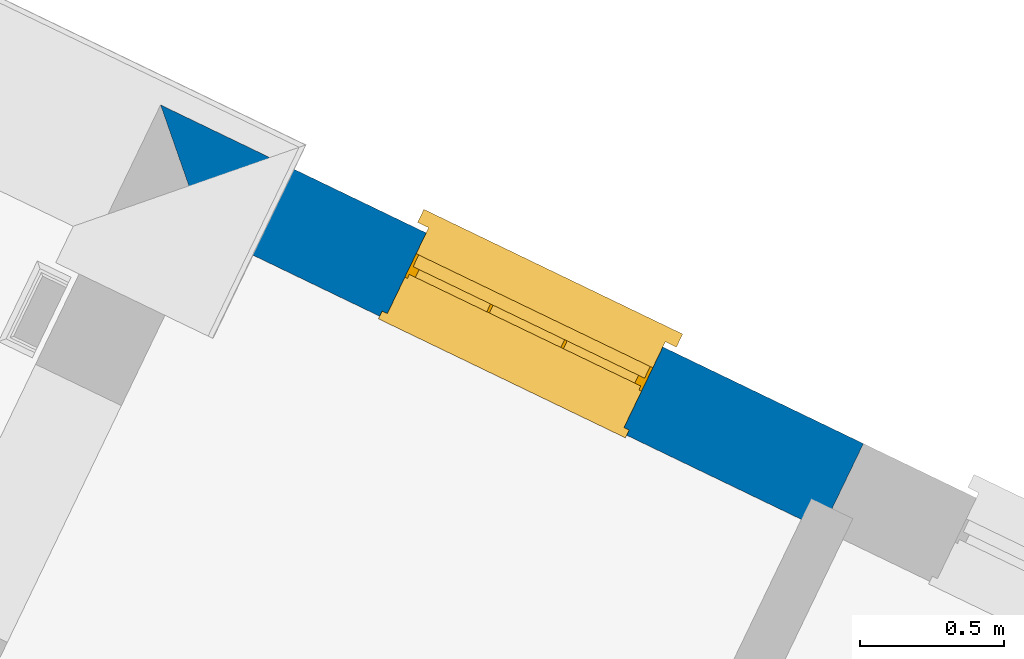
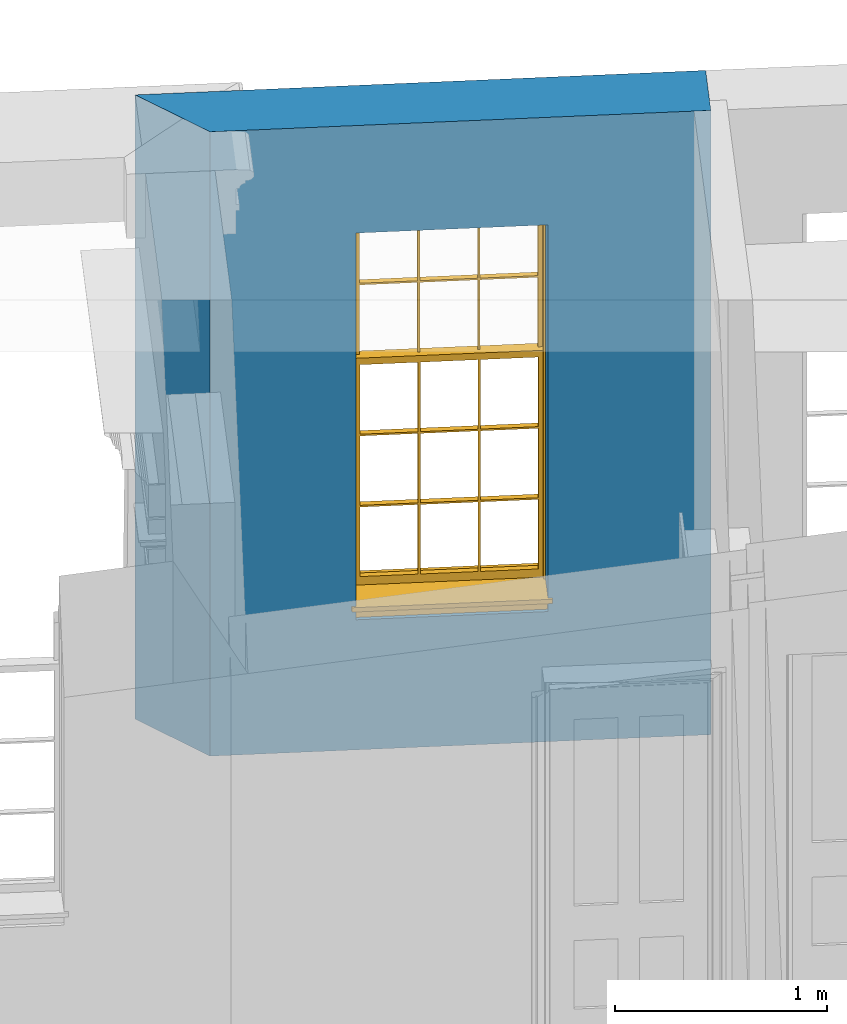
# One storey, part 6 of 6: 1 wall, 1 window, 1 opening.
"""IFC4 building model written with IfcOpenShell, lengths in metres."""

from ifc_helpers import new_model, si_unit, frame, origin, origin_with_axes, place, context, subcontext, project, spatial, polyline, outline, extrude, faceted_brep, source, transform, mapped, material, layer, layer_set, layer_usage, type_object, type_shapes, element, fill, save


model = new_model("IFC4")

# Units and contexts
model_context = context("Model", 3, world=origin_with_axes())
body_context = subcontext(model_context, "Body", "Model", "MODEL_VIEW")
ifc_project = project(units=[si_unit("PLANEANGLEUNIT", "RADIAN"), si_unit("MASSUNIT", "GRAM", prefix="KILO"), si_unit("FORCEUNIT", "NEWTON", prefix="KILO"), si_unit("LENGTHUNIT", "METRE"), si_unit("AREAUNIT", "SQUARE_METRE"), si_unit("VOLUMEUNIT", "CUBIC_METRE")], contexts=[model_context, model_context])

# Sites, building, storey
site_1_placement = place(None, origin_with_axes())
site_1 = spatial("IfcSite", under=ifc_project, at=site_1_placement, Name="Tamar")
site_2_placement = place(site_1_placement, origin_with_axes())
site_2 = spatial("IfcSite", under=site_1, at=site_2_placement, Name="Site plot-1", CompositionType="ELEMENT")
building_placement = place(None, origin_with_axes())
building = spatial("IfcBuilding", under=site_2, at=building_placement, Name="Building plot-1", CompositionType="ELEMENT")
storey_placement = place(None, frame((0.0, 0.0, 26.0), z_axis=(0.0, 0.0, 1.0), x_axis=(1.0, 0.0, 0.0)))
storey = spatial("IfcBuildingStorey", under=building, at=storey_placement, Name="plot-1 0", CompositionType="ELEMENT", Elevation=26.0)

# Wall, opening, window
ifc_material = material(Name="Masonry")
ifc_layer = layer(ifc_material, 0.33, ventilated=False)
ifc_layer_set = layer_set([ifc_layer], Name="exterior_0.08_0.25")
ifc_layer_usage = layer_usage(ifc_layer_set, "AXIS2", "POSITIVE", -0.25)
wall_type = type_object("IfcWallType", Name="exterior_0.08_0.25", PredefinedType="SOLIDWALL", material=ifc_layer_set)
wall_placement = place(storey_placement, frame((226.301913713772, 297.716712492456, 0.0), z_axis=(0.0, 0.0, 1.0), x_axis=(-0.90085631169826, 0.434117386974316, 0.0)))
wall = element("IfcWall", 1, at=wall_placement, inside=storey, type_object=wall_type, material=ifc_layer_usage, Name="exterior", context=body_context, shape_type="SweptSolid", body=[
    extrude(outline(polyline([(-6.95842022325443e-15, 0.0800000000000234), (-4.04523211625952e-14, -0.249999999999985), (2.70242940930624, -0.250000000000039), (2.3724294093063, 0.080000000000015), (-6.95842022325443e-15, 0.0800000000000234)])), origin_with_axes(), (0.0, 0.0, 1.0), 3.6),
])
opening_placement = place(wall_placement, frame((0.771214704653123, 0.0, 0.75)))
opening = element("IfcOpeningElement", 2, at=opening_placement, cuts=wall, Name="My Opening", ObjectType="Opening", context=body_context, shape_type="SweptSolid", body=[
    extrude(outline(polyline([(0.0, -0.269999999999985), (0.90999999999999, -0.270000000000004), (0.91000000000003, 1.09999999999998), (3.99680288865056e-14, 1.1), (0.0, -0.269999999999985)])), origin_with_axes(), (0.0, 0.0, 1.0), 2.23),
])
window_type = type_object("IfcWindowType", Name="sash_big_taller", PartitioningType="DOUBLE_PANEL_HORIZONTAL", PredefinedType="NOTDEFINED")
shared_shape = source(origin(), body_context, "Body", "Brep", [
    faceted_brep([(0.033125, 0.145, 1.385209), (0.01, 0.145, 1.385209), (0.033125, 0.145, 1.786042), (0.876875, 0.145, 1.385209), (0.876875, 0.145, 1.786042), (0.9, 0.145, 1.385209), (0.876875, 0.145, 1.796042), (0.876875, 0.145, 2.196875), (0.9, 0.145, 2.22), (0.033125, 0.145, 2.196875), (0.033125, 0.145, 1.796042), (0.01, 0.145, 2.22), (0.876875, 0.115, 1.786042), (0.876875, 0.115, 1.385209), (0.9, 0.115, 1.347084), (0.033125, 0.115, 2.196875), (0.01, 0.115, 2.22), (0.033125, 0.115, 1.796042), (0.01, 0.115, 1.347084), (0.033125, 0.115, 1.385209), (0.033125, 0.115, 1.786042), (0.876875, 0.115, 2.196875), (0.876875, 0.115, 1.796042), (0.9, 0.115, 2.22), (0.033125, 0.145, 1.347084), (0.01, 0.145, 1.347084), (0.033125, 0.145, 0.94625), (0.876875, 0.145, 1.347084), (0.876875, 0.145, 0.94625), (0.9, 0.145, 1.347084), (0.876875, 0.145, 0.52625), (0.876875, 0.145, 0.125417), (0.9, 0.145, 0.077167), (0.033125, 0.145, 0.125417), (0.033125, 0.145, 0.52625), (0.01, 0.145, 0.077167), (-0.0425, 0.0, 0.01), (-0.0425, -0.05, 0.001667), (0.0, 0.0, 0.01), (0.9525, 0.0, 0.01), (0.91, 0.0, 0.01), (0.9525, -0.05, 0.001667), (-0.02, 0.33, 0.077167), (0.0, 0.33, 0.077167), (-0.02, 0.36, 0.077167), (0.0, 0.19, 0.077167), (0.01, 0.19, 0.077167), (0.91, 0.19, 0.077167), (0.91, 0.33, 0.077167), (0.9, 0.19, 0.077167), (0.93, 0.33, 0.077167), (0.93, 0.36, 0.077167), (0.01, 0.175, 1.385209), (0.9, 0.175, 1.385209), (0.876875, 0.175, 0.125417), (0.876875, 0.175, 0.52625), (0.9, 0.175, 0.077167), (0.876875, 0.175, 0.94625), (0.876875, 0.175, 1.347084), (0.033125, 0.175, 0.125417), (0.01, 0.175, 0.077167), (0.033125, 0.175, 0.52625), (0.033125, 0.175, 1.347084), (0.033125, 0.175, 0.94625), (-0.02, 0.33, 0.052167), (-0.02, 0.36, 0.052167), (0.93, 0.36, 0.052167), (0.93, 0.33, 0.052167), (0.91, 0.33, 0.052167), (0.0, 0.33, 0.052167), (0.91, 0.1, 0.026667), (0.0, 0.1, 0.026667), (-0.0425, -0.05, -0.123333), (0.9525, -0.05, -0.123333), (-0.0425, 0.0, -0.123333), (0.9525, 0.0, -0.123333), (0.01, 0.19, 2.22), (0.9, 0.19, 2.22), (0.0, 0.19, 2.23), (0.91, 0.19, 2.23), (0.01, 0.1, 0.077167), (0.9, 0.1, 0.077167), (0.592292, 0.145, 0.125417), (0.592292, 0.175, 0.125417), (0.317708, 0.175, 0.125417), (0.317708, 0.145, 0.125417), (0.592292, 0.145, 0.53625), (0.317708, 0.145, 0.53625), (0.317708, 0.145, 0.52625), (0.592292, 0.145, 0.52625), (0.592292, 0.175, 0.53625), (0.317708, 0.175, 0.53625), (0.592292, 0.115, 1.796042), (0.592292, 0.145, 1.796042), (0.317708, 0.145, 1.796042), (0.317708, 0.115, 1.796042), (0.317708, 0.115, 1.786042), (0.592292, 0.115, 1.786042), (0.317708, 0.145, 1.786042), (0.592292, 0.145, 1.786042), (0.602292, 0.115, 1.786042), (0.592292, 0.115, 1.385209), (0.602292, 0.115, 1.385209), (0.602292, 0.145, 1.385209), (0.592292, 0.145, 1.385209), (0.602292, 0.145, 1.786042), (0.876875, 0.145, 0.53625), (0.876875, 0.175, 0.53625), (0.602292, 0.175, 0.53625), (0.602292, 0.145, 0.53625), (0.317708, 0.175, 0.52625), (0.307708, 0.175, 0.125417), (0.307708, 0.175, 0.52625), (0.602292, 0.175, 0.52625), (0.602292, 0.175, 0.125417), (0.592292, 0.175, 0.52625), (0.307708, 0.175, 0.53625), (0.033125, 0.175, 0.53625), (0.317708, 0.175, 1.347084), (0.317708, 0.175, 0.94625), (0.307708, 0.175, 0.94625), (0.307708, 0.175, 1.347084), (0.602292, 0.175, 1.347084), (0.602292, 0.175, 0.94625), (0.592292, 0.175, 0.94625), (0.592292, 0.175, 1.347084), (0.307708, 0.145, 0.52625), (0.307708, 0.145, 0.125417), (0.307708, 0.145, 0.53625), (0.033125, 0.145, 0.53625), (0.307708, 0.145, 1.347084), (0.307708, 0.145, 0.94625), (0.592292, 0.145, 1.347084), (0.592292, 0.145, 0.94625), (0.317708, 0.145, 0.94625), (0.317708, 0.145, 1.347084), (0.602292, 0.145, 0.94625), (0.602292, 0.145, 1.347084), (0.602292, 0.145, 0.52625), (0.602292, 0.145, 0.125417), (0.307708, 0.115, 1.796042), (0.307708, 0.115, 1.786042), (0.307708, 0.115, 1.385209), (0.317708, 0.115, 1.385209), (0.317708, 0.115, 2.196875), (0.307708, 0.115, 2.196875), (0.602292, 0.115, 2.196875), (0.592292, 0.115, 2.196875), (0.602292, 0.115, 1.796042), (0.602292, 0.145, 1.796042), (0.307708, 0.145, 1.796042), (0.307708, 0.145, 2.196875), (0.317708, 0.145, 2.196875), (0.592292, 0.145, 2.196875), (0.602292, 0.145, 2.196875), (0.307708, 0.145, 1.786042), (0.317708, 0.145, 1.385209), (0.307708, 0.145, 1.385209), (0.876875, 0.175, 0.93625), (0.033125, 0.175, 0.93625), (0.033125, 0.145, 0.93625), (0.876875, 0.145, 0.93625), (0.91, 0.1, 2.23), (0.9, 0.1, 2.22), (0.01, 0.1, 2.22), (0.0, 0.1, 2.23), (0.91, 0.0, 0.0), (0.0, 0.0, 0.0), (0.91, 0.33, 0.0), (0.0, 0.33, 0.0), (0.317708, 0.145, 0.93625), (0.592292, 0.145, 0.93625), (0.317708, 0.175, 0.93625), (0.307708, 0.175, 0.93625), (0.602292, 0.175, 0.93625), (0.592292, 0.175, 0.93625), (0.307708, 0.145, 0.93625), (0.602292, 0.145, 0.93625)], [[[0, 1, 2]], [[3, 4, 5]], [[6, 7, 8]], [[9, 10, 11]], [[12, 13, 14]], [[15, 16, 17]], [[18, 19, 20]], [[21, 22, 23]], [[24, 25, 26]], [[27, 28, 29]], [[30, 31, 32]], [[33, 34, 35]], [[14, 27, 29]], [[25, 24, 18]], [[36, 37, 38]], [[39, 40, 41]], [[42, 43, 44]], [[45, 46, 43]], [[47, 48, 49]], [[50, 51, 48]], [[1, 0, 52]], [[5, 53, 3]], [[54, 55, 56]], [[57, 58, 53]], [[59, 60, 61]], [[62, 63, 52]], [[48, 43, 46, 49]], [[51, 44, 43, 48]], [[64, 42, 44, 65]], [[65, 44, 51, 66]], [[66, 51, 50, 67]], [[65, 66, 68, 69]], [[60, 56, 49, 46]], [[70, 71, 38, 40]], [[37, 41, 40, 38]], [[37, 72, 73, 41]], [[74, 75, 73, 72]], [[8, 11, 76, 77]], [[76, 78, 79, 77]], [[32, 35, 80, 81]], [[81, 80, 71, 70]], [[82, 83, 84, 85]], [[86, 87, 88, 89]], [[86, 90, 91, 87]], [[92, 93, 94, 95]], [[92, 95, 96, 97]], [[96, 98, 99, 97]], [[100, 97, 101, 102]], [[103, 104, 99, 105]], [[97, 99, 104, 101]], [[102, 103, 105, 100]], [[106, 107, 108, 109]], [[110, 84, 111, 112]], [[113, 114, 83, 115]], [[116, 112, 61, 117]], [[90, 115, 110, 91]], [[118, 119, 120, 121]], [[122, 123, 124, 125]], [[113, 108, 107, 55]], [[126, 112, 111, 127]], [[34, 61, 112, 126]], [[89, 115, 83, 82]], [[88, 110, 115, 89]], [[85, 84, 110, 88]], [[128, 116, 117, 129]], [[130, 121, 120, 131]], [[132, 125, 124, 133]], [[134, 119, 118, 135]], [[136, 123, 122, 137]], [[138, 113, 55, 30]], [[139, 114, 113, 138]], [[138, 30, 106, 109]], [[88, 126, 127, 85]], [[138, 89, 82, 139]], [[137, 132, 133, 136]], [[128, 129, 34, 126]], [[135, 130, 131, 134]], [[140, 17, 20, 141]], [[96, 141, 142, 143]], [[144, 145, 140, 95]], [[146, 147, 92, 148]], [[100, 12, 22, 148]], [[149, 6, 4, 105]], [[94, 150, 151, 152]], [[149, 93, 153, 154]], [[99, 98, 94, 93]], [[155, 2, 10, 150]], [[156, 157, 155, 98]], [[141, 155, 157, 142]], [[20, 2, 155, 141]], [[143, 156, 98, 96]], [[140, 150, 10, 17]], [[145, 151, 150, 140]], [[147, 153, 93, 92]], [[95, 94, 152, 144]], [[22, 6, 149, 148]], [[148, 149, 154, 146]], [[100, 105, 4, 12]], [[109, 86, 89, 138]], [[108, 113, 115, 90]], [[91, 110, 112, 116]], [[87, 128, 126, 88]], [[97, 100, 148, 92]], [[141, 96, 95, 140]], [[98, 155, 150, 94]], [[105, 99, 93, 149]], [[143, 101, 104, 156]], [[135, 118, 125, 132]], [[144, 152, 153, 147]], [[127, 111, 59, 33]], [[15, 9, 151, 145]], [[146, 154, 7, 21]], [[31, 54, 114, 139]], [[36, 74, 72, 37]], [[39, 41, 73, 75]], [[18, 14, 101, 143]], [[23, 16, 144, 147]], [[83, 56, 60, 84]], [[52, 53, 125, 118]], [[53, 52, 156, 104]], [[11, 8, 153, 152]], [[14, 18, 135, 132]], [[2, 1, 11, 10]], [[8, 5, 4, 6]], [[57, 53, 56, 158]], [[60, 52, 63, 159]], [[26, 25, 35, 160]], [[32, 29, 28, 161]], [[14, 23, 22, 12]], [[18, 20, 17, 16]], [[19, 0, 2, 20]], [[17, 10, 9, 15]], [[12, 4, 3, 13]], [[21, 7, 6, 22]], [[27, 58, 57, 28]], [[30, 55, 54, 31]], [[33, 59, 61, 34]], [[26, 63, 62, 24]], [[5, 8, 77, 53]], [[76, 11, 1, 52]], [[46, 45, 78, 76]], [[49, 77, 79, 47]], [[70, 162, 163, 81]], [[71, 80, 164, 165]], [[19, 142, 157, 0]], [[102, 13, 3, 103]], [[121, 130, 24, 62]], [[29, 32, 81, 14]], [[80, 35, 25, 18]], [[60, 46, 76, 52]], [[77, 49, 56, 53]], [[23, 14, 81, 163]], [[16, 164, 80, 18]], [[35, 85, 127]], [[127, 33, 35]], [[139, 82, 32]], [[32, 31, 139]], [[32, 82, 85, 35]], [[102, 101, 14]], [[14, 13, 102]], [[18, 143, 142]], [[142, 19, 18]], [[146, 21, 23]], [[23, 147, 146]], [[16, 15, 145]], [[145, 144, 16]], [[11, 152, 151]], [[151, 9, 11]], [[154, 153, 8]], [[8, 7, 154]], [[23, 163, 164, 16]], [[162, 165, 164, 163]], [[52, 118, 121]], [[121, 62, 52]], [[125, 53, 122]], [[58, 122, 53]], [[27, 137, 122, 58]], [[56, 83, 114]], [[114, 54, 56]], [[111, 84, 60]], [[60, 59, 111]], [[137, 27, 14]], [[14, 132, 137]], [[130, 135, 18]], [[18, 24, 130]], [[157, 156, 52]], [[52, 0, 157]], [[103, 3, 53]], [[53, 104, 103]], [[79, 78, 165, 162]], [[78, 45, 71, 165]], [[162, 70, 47, 79]], [[166, 75, 74, 167]], [[68, 66, 67]], [[48, 68, 67, 50]], [[69, 64, 65]], [[42, 64, 69, 43]], [[69, 68, 168, 169]], [[70, 68, 48, 47]], [[166, 168, 68, 70]], [[43, 69, 71, 45]], [[69, 169, 167, 71]], [[168, 166, 167, 169]], [[38, 167, 74, 36]], [[71, 167, 38]], [[39, 75, 166, 40]], [[40, 166, 70]], [[133, 134, 170, 171]], [[133, 124, 119, 134]], [[28, 57, 123, 136]], [[172, 91, 116, 173]], [[174, 108, 90, 175]], [[120, 173, 159, 63]], [[124, 175, 172, 119]], [[174, 123, 57, 158]], [[176, 173, 116, 128]], [[160, 159, 173, 176]], [[171, 175, 90, 86]], [[170, 172, 175, 171]], [[87, 91, 172, 170]], [[131, 120, 63, 26]], [[177, 174, 158, 161]], [[109, 108, 174, 177]], [[177, 161, 28, 136]], [[170, 176, 128, 87]], [[177, 171, 86, 109]], [[131, 26, 160, 176]], [[136, 133, 171, 177]], [[123, 174, 175, 124]], [[119, 172, 173, 120]], [[134, 131, 176, 170]], [[129, 117, 159, 160]], [[161, 158, 107, 106]], [[35, 34, 129]], [[35, 129, 160]], [[32, 106, 30]], [[32, 161, 106]], [[56, 55, 107]], [[56, 107, 158]], [[60, 117, 61]], [[60, 159, 117]]]),
])
type_shapes(window_type, [shared_shape])
window_placement = place(storey_placement, frame((225.724371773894, 298.294741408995, 0.75), z_axis=(0.0, 0.0, 1.0), x_axis=(-0.819779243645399, 0.395046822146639, 0.0)))
window = element("IfcWindow", 3, at=window_placement, inside=storey, type_object=window_type, Name="circulation street window", OverallHeight=2.23, OverallWidth=0.91, context=body_context, shape_type="MappedRepresentation", body=[
    mapped(shared_shape, transform((0.0, 0.0, 0.0), scale=1.0)),
])
fill(opening, window)

save(model, "model.ifc")
